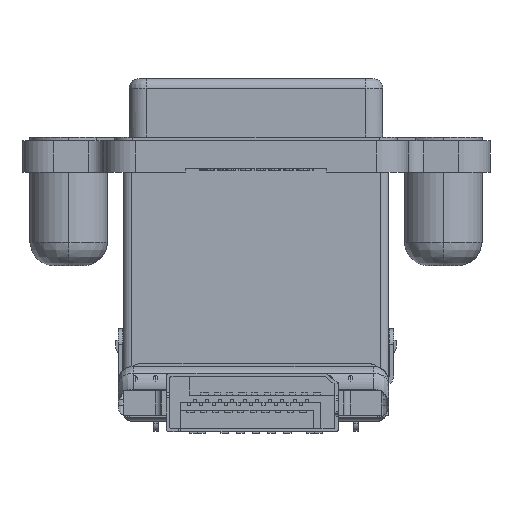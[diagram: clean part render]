
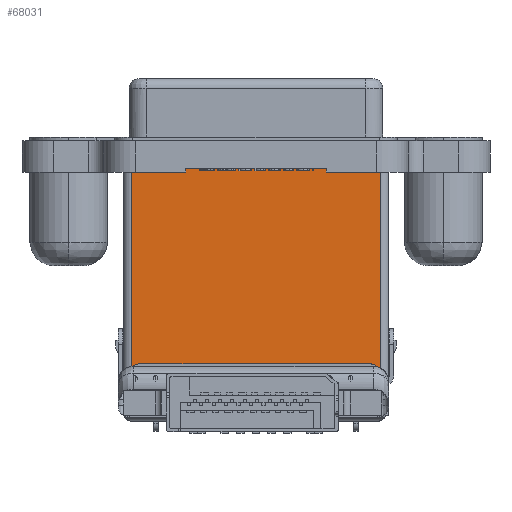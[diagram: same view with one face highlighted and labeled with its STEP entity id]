
A CAD part, front view. The second image highlights one B-rep face of the part: STEP entity #68031.
In plain terms, the highlighted planar face has unit normal (0, -1, 0) as drawn and (0, 0, 1) by its records, which use the part's own axes.
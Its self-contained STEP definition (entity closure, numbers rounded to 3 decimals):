
#67114 = VERTEX_POINT('',#67115);
#67115 = CARTESIAN_POINT('',(-4.5,1.5,0.));
#67132 = VERTEX_POINT('',#67133);
#67133 = CARTESIAN_POINT('',(-4.5,1.25,0.));
#67139 = EDGE_CURVE('',#67132,#67114,#67140,.T.);
#67140 = LINE('',#67141,#67142);
#67141 = CARTESIAN_POINT('',(-4.5,1.25,0.));
#67142 = VECTOR('',#67143,1.);
#67143 = DIRECTION('',(0.,1.,0.));
#67589 = VERTEX_POINT('',#67590);
#67590 = CARTESIAN_POINT('',(4.5,1.5,0.));
#67596 = EDGE_CURVE('',#67589,#67597,#67599,.T.);
#67597 = VERTEX_POINT('',#67598);
#67598 = CARTESIAN_POINT('',(4.5,1.25,0.));
#67599 = LINE('',#67600,#67601);
#67600 = CARTESIAN_POINT('',(4.5,1.25,0.));
#67601 = VECTOR('',#67602,1.);
#67602 = DIRECTION('',(0.,-1.,0.));
#67768 = EDGE_CURVE('',#67769,#67771,#67773,.T.);
#67769 = VERTEX_POINT('',#67770);
#67770 = CARTESIAN_POINT('',(8.,1.5,0.));
#67771 = VERTEX_POINT('',#67772);
#67772 = CARTESIAN_POINT('',(8.,15.2,0.));
#67773 = LINE('',#67774,#67775);
#67774 = CARTESIAN_POINT('',(8.,15.2,0.));
#67775 = VECTOR('',#67776,1.);
#67776 = DIRECTION('',(0.,1.,0.));
#67810 = VERTEX_POINT('',#67811);
#67811 = CARTESIAN_POINT('',(-8.,15.2,0.));
#67818 = EDGE_CURVE('',#67771,#67810,#67819,.T.);
#67819 = LINE('',#67820,#67821);
#67820 = CARTESIAN_POINT('',(-8.,15.2,0.));
#67821 = VECTOR('',#67822,1.);
#67822 = DIRECTION('',(-1.,0.,0.));
#67834 = VERTEX_POINT('',#67835);
#67835 = CARTESIAN_POINT('',(-8.,1.5,0.));
#67842 = EDGE_CURVE('',#67810,#67834,#67843,.T.);
#67843 = LINE('',#67844,#67845);
#67844 = CARTESIAN_POINT('',(-8.,15.2,0.));
#67845 = VECTOR('',#67846,1.);
#67846 = DIRECTION('',(0.,-1.,0.));
#67860 = EDGE_CURVE('',#67132,#67597,#67861,.T.);
#67861 = LINE('',#67862,#67863);
#67862 = CARTESIAN_POINT('',(-8.,1.25,0.));
#67863 = VECTOR('',#67864,1.);
#67864 = DIRECTION('',(1.,0.,0.));
#67982 = EDGE_CURVE('',#67589,#67769,#67983,.T.);
#67983 = LINE('',#67984,#67985);
#67984 = CARTESIAN_POINT('',(-8.,1.5,0.));
#67985 = VECTOR('',#67986,1.);
#67986 = DIRECTION('',(1.,0.,0.));
#68013 = EDGE_CURVE('',#67834,#67114,#68014,.T.);
#68014 = LINE('',#68015,#68016);
#68015 = CARTESIAN_POINT('',(-8.,1.5,0.));
#68016 = VECTOR('',#68017,1.);
#68017 = DIRECTION('',(1.,0.,0.));
#68031 = ADVANCED_FACE('',(#68032),#68042,.T.);
#68032 = FACE_BOUND('',#68033,.T.);
#68033 = EDGE_LOOP('',(#68034,#68035,#68036,#68037,#68038,#68039,#68040,
    #68041));
#68034 = ORIENTED_EDGE('',*,*,#67596,.F.);
#68035 = ORIENTED_EDGE('',*,*,#67982,.T.);
#68036 = ORIENTED_EDGE('',*,*,#67768,.T.);
#68037 = ORIENTED_EDGE('',*,*,#67818,.T.);
#68038 = ORIENTED_EDGE('',*,*,#67842,.T.);
#68039 = ORIENTED_EDGE('',*,*,#68013,.T.);
#68040 = ORIENTED_EDGE('',*,*,#67139,.F.);
#68041 = ORIENTED_EDGE('',*,*,#67860,.T.);
#68042 = PLANE('',#68043);
#68043 = AXIS2_PLACEMENT_3D('',#68044,#68045,#68046);
#68044 = CARTESIAN_POINT('',(-8.,15.2,0.));
#68045 = DIRECTION('',(0.,0.,1.));
#68046 = DIRECTION('',(1.,0.,0.));
